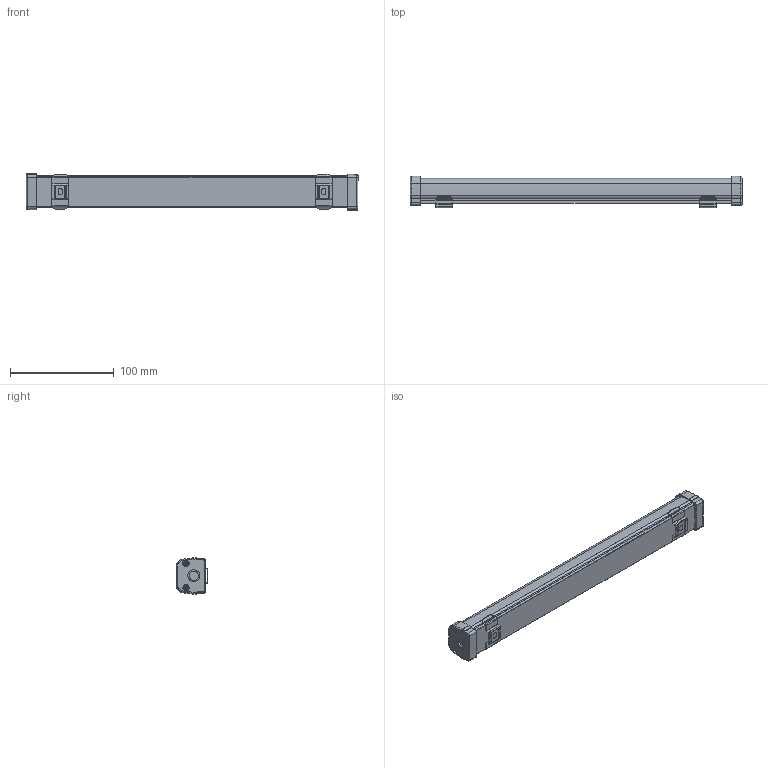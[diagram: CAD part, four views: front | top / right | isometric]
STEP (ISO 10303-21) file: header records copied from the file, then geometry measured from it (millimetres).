
FILE_DESCRIPTION (( 'STEP AP203' ), '1' );
FILE_NAME ('QKR572_3D00133 QEL-300 3D紫賊_220804.STEP', '2022-08-04T05:40:40', ( 'QKR_NOTE119' ), ( '' ), 'SwSTEP 2.0', 'SolidWorks 2019', '' );
FILE_SCHEMA (( 'CONFIG_CONTROL_DESIGN' ));
Length unit declared in the file: millimetre
Products named in the file (1): QKR572_3D00133 QEL-300 3D紫賊_220804
Bounding box: 320 x 30.75 x 35.21 mm (x, y, z)
Volume: 219980.3 mm3; surface area: 37928.6 mm2
Topology: 1 solids, 5 shells, 463 faces, 1233 edges, 784 vertices
Faces by surface type: plane 176, cylinder 129, cone 64, torus 64, bspline 22, sphere 8
Entity records: 15476 total; most frequent: CARTESIAN_POINT 4047, ORIENTED_EDGE 2450, DIRECTION 2383, EDGE_CURVE 1225, AXIS2_PLACEMENT_3D 970, VERTEX_POINT 784, CIRCLE 528, EDGE_LOOP 499
